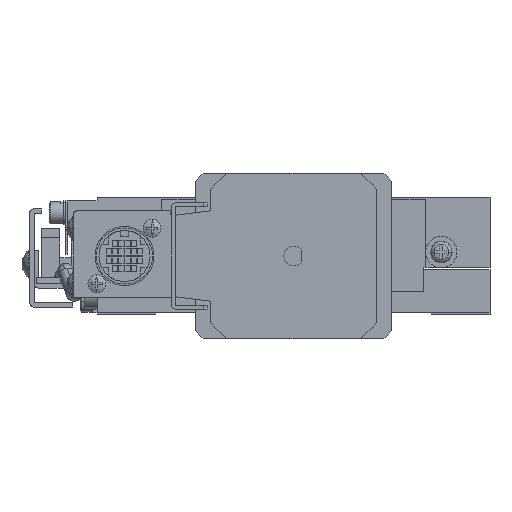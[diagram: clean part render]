
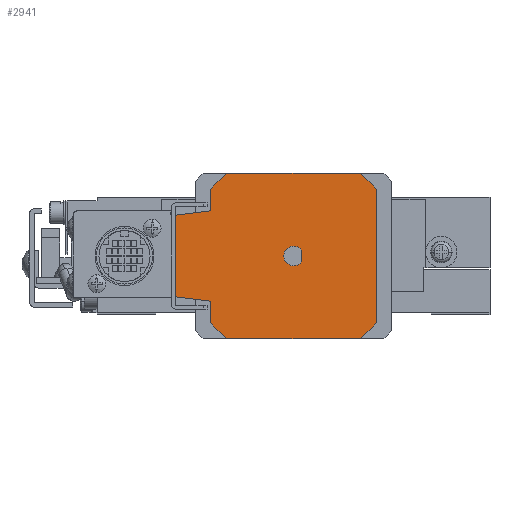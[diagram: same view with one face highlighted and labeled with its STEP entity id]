
A CAD part, left-side view. The second image highlights one B-rep face of the part: STEP entity #2941.
In plain terms, the highlighted planar face has unit normal (-1, 0, 0).
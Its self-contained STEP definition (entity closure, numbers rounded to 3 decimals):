
#1685 = CARTESIAN_POINT ( 'NONE',  ( -326.094, 1.688, -177.376 ) ) ;
#2014 = EDGE_CURVE ( 'NONE', #16147, #3051, #35615, .T. ) ;
#2346 = CARTESIAN_POINT ( 'NONE',  ( -326.094, 18.658, -156.376 ) ) ;
#2634 = DIRECTION ( 'NONE',  ( 0., 0.993, 0.122 ) ) ;
#2780 = DIRECTION ( 'NONE',  ( 0., -0.778, -0.629 ) ) ;
#2941 = ADVANCED_FACE ( 'NONE', ( #55818, #35565 ), #17891, .F. ) ;
#3051 = VERTEX_POINT ( 'NONE', #31726 ) ;
#4024 = CARTESIAN_POINT ( 'NONE',  ( -326.094, 18.658, -156.376 ) ) ;
#4031 = CARTESIAN_POINT ( 'NONE',  ( -326.094, -2.342, -139.405 ) ) ;
#4065 = VECTOR ( 'NONE', #52020, 1000. ) ;
#4090 = DIRECTION ( 'NONE',  ( 1., 0., 0. ) ) ;
#4941 = CARTESIAN_POINT ( 'NONE',  ( -326.094, 48.658, -146.423 ) ) ;
#6215 = EDGE_LOOP ( 'NONE', ( #20209, #25193 ) ) ;
#7402 = VECTOR ( 'NONE', #42348, 1000. ) ;
#7574 = VERTEX_POINT ( 'NONE', #19471 ) ;
#7965 = VERTEX_POINT ( 'NONE', #59954 ) ;
#8746 = VECTOR ( 'NONE', #55565, 1000. ) ;
#9273 = CARTESIAN_POINT ( 'NONE',  ( -326.094, 39.658, -144.876 ) ) ;
#9867 = CARTESIAN_POINT ( 'NONE',  ( -326.094, -2.342, -139.405 ) ) ;
#9928 = EDGE_CURVE ( 'NONE', #12698, #38519, #14304, .T. ) ;
#11139 = VECTOR ( 'NONE', #30746, 1000. ) ;
#11410 = VECTOR ( 'NONE', #2634, 1000. ) ;
#12698 = VERTEX_POINT ( 'NONE', #29120 ) ;
#12817 = ORIENTED_EDGE ( 'NONE', *, *, #28439, .F. ) ;
#12976 = CARTESIAN_POINT ( 'NONE',  ( -326.094, 35.629, -177.376 ) ) ;
#14202 = EDGE_CURVE ( 'NONE', #18560, #52153, #22407, .T. ) ;
#14304 = LINE ( 'NONE', #14915, #4065 ) ;
#14410 = DIRECTION ( 'NONE',  ( 0., 0.122, -0.993 ) ) ;
#14606 = CARTESIAN_POINT ( 'NONE',  ( -326.094, 48.158, -166.328 ) ) ;
#14915 = CARTESIAN_POINT ( 'NONE',  ( -326.094, 16.658, -157.876 ) ) ;
#15317 = CARTESIAN_POINT ( 'NONE',  ( -326.094, 18.658, -156.376 ) ) ;
#15512 = CARTESIAN_POINT ( 'NONE',  ( -326.094, 35.629, -135.376 ) ) ;
#16147 = VERTEX_POINT ( 'NONE', #15512 ) ;
#16931 = EDGE_CURVE ( 'NONE', #52153, #38226, #22280, .T. ) ;
#17891 = PLANE ( 'NONE',  #47816 ) ;
#18508 = CARTESIAN_POINT ( 'NONE',  ( -326.094, 72.709, -205.927 ) ) ;
#18560 = VERTEX_POINT ( 'NONE', #37074 ) ;
#18696 = CARTESIAN_POINT ( 'NONE',  ( -326.094, 39.658, -167.876 ) ) ;
#18847 = DIRECTION ( 'NONE',  ( 1., 0., 0. ) ) ;
#19471 = CARTESIAN_POINT ( 'NONE',  ( -326.094, 48.658, -166.328 ) ) ;
#19768 = ORIENTED_EDGE ( 'NONE', *, *, #14202, .F. ) ;
#20209 = ORIENTED_EDGE ( 'NONE', *, *, #35200, .T. ) ;
#20392 = CARTESIAN_POINT ( 'NONE',  ( -326.094, 48.219, -145.927 ) ) ;
#20983 = VECTOR ( 'NONE', #38881, 1000. ) ;
#21291 = CARTESIAN_POINT ( 'NONE',  ( -326.094, 39.658, -167.876 ) ) ;
#21371 = CARTESIAN_POINT ( 'NONE',  ( -326.094, -2.342, -173.346 ) ) ;
#21537 = AXIS2_PLACEMENT_3D ( 'NONE', #4024, #54746, #22299 ) ;
#21647 = CARTESIAN_POINT ( 'NONE',  ( -326.094, 48.219, -166.824 ) ) ;
#22280 = LINE ( 'NONE', #21291, #11410 ) ;
#22299 = DIRECTION ( 'NONE',  ( 0., 0.629, -0.778 ) ) ;
#22407 = LINE ( 'NONE', #55285, #41321 ) ;
#22459 = VECTOR ( 'NONE', #40194, 1000. ) ;
#22677 = ORIENTED_EDGE ( 'NONE', *, *, #24856, .F. ) ;
#23201 = DIRECTION ( 'NONE',  ( 0., 1., 0. ) ) ;
#23410 = DIRECTION ( 'NONE',  ( 1., 0., 0. ) ) ;
#24635 = AXIS2_PLACEMENT_3D ( 'NONE', #59887, #23410, #23201 ) ;
#24856 = EDGE_CURVE ( 'NONE', #30305, #18560, #28671, .T. ) ;
#25193 = ORIENTED_EDGE ( 'NONE', *, *, #9928, .F. ) ;
#25405 = LINE ( 'NONE', #59369, #22459 ) ;
#25775 = EDGE_CURVE ( 'NONE', #49388, #40246, #35126, .T. ) ;
#26537 = ORIENTED_EDGE ( 'NONE', *, *, #50437, .F. ) ;
#28208 = CARTESIAN_POINT ( 'NONE',  ( -326.094, 35.629, -135.376 ) ) ;
#28439 = EDGE_CURVE ( 'NONE', #7574, #40064, #25405, .T. ) ;
#28671 = CIRCLE ( 'NONE', #21537, 27. ) ;
#28974 = CIRCLE ( 'NONE', #34477, 0.5 ) ;
#29120 = CARTESIAN_POINT ( 'NONE',  ( -326.094, 16.658, -157.876 ) ) ;
#30305 = VERTEX_POINT ( 'NONE', #12976 ) ;
#30746 = DIRECTION ( 'NONE',  ( 0., -0.993, 0.122 ) ) ;
#31008 = VERTEX_POINT ( 'NONE', #9867 ) ;
#31194 = CARTESIAN_POINT ( 'NONE',  ( -326.094, 18.658, -156.376 ) ) ;
#31725 = CIRCLE ( 'NONE', #24635, 0.5 ) ;
#31726 = CARTESIAN_POINT ( 'NONE',  ( -326.094, 1.688, -135.376 ) ) ;
#31829 = VERTEX_POINT ( 'NONE', #21371 ) ;
#32814 = CARTESIAN_POINT ( 'NONE',  ( -326.094, 16.658, -154.876 ) ) ;
#33047 = ORIENTED_EDGE ( 'NONE', *, *, #34425, .F. ) ;
#34425 = EDGE_CURVE ( 'NONE', #38226, #7574, #28974, .T. ) ;
#34477 = AXIS2_PLACEMENT_3D ( 'NONE', #14606, #18847, #14410 ) ;
#35126 = LINE ( 'NONE', #20392, #11139 ) ;
#35200 = EDGE_CURVE ( 'NONE', #12698, #38519, #36926, .T. ) ;
#35565 = FACE_BOUND ( 'NONE', #6215, .T. ) ;
#35615 = LINE ( 'NONE', #28208, #8746 ) ;
#36184 = CARTESIAN_POINT ( 'NONE',  ( -326.094, 48.219, -145.927 ) ) ;
#36725 = EDGE_CURVE ( 'NONE', #56921, #16147, #44660, .T. ) ;
#36926 = CIRCLE ( 'NONE', #55814, 2.5 ) ;
#37074 = CARTESIAN_POINT ( 'NONE',  ( -326.094, 39.658, -173.346 ) ) ;
#37436 = ORIENTED_EDGE ( 'NONE', *, *, #37808, .F. ) ;
#37808 = EDGE_CURVE ( 'NONE', #31008, #31829, #43818, .T. ) ;
#38226 = VERTEX_POINT ( 'NONE', #21647 ) ;
#38427 = EDGE_CURVE ( 'NONE', #40246, #56921, #44437, .T. ) ;
#38519 = VERTEX_POINT ( 'NONE', #32814 ) ;
#38795 = VECTOR ( 'NONE', #41220, 1000. ) ;
#38881 = DIRECTION ( 'NONE',  ( 0., 1., 0. ) ) ;
#39952 = DIRECTION ( 'NONE',  ( 1., 0., 0. ) ) ;
#40064 = VERTEX_POINT ( 'NONE', #4941 ) ;
#40194 = DIRECTION ( 'NONE',  ( 0., 0., 1. ) ) ;
#40246 = VERTEX_POINT ( 'NONE', #57056 ) ;
#40316 = DIRECTION ( 'NONE',  ( 1., 0., 0. ) ) ;
#40584 = EDGE_LOOP ( 'NONE', ( #54794, #37436, #26537, #56556, #53476, #58346, #48474, #57814, #12817, #33047, #41727, #19768, #22677, #59028 ) ) ;
#41220 = DIRECTION ( 'NONE',  ( 0., 0., -1. ) ) ;
#41321 = VECTOR ( 'NONE', #46562, 1000. ) ;
#41393 = AXIS2_PLACEMENT_3D ( 'NONE', #31194, #39952, #2780 ) ;
#41727 = ORIENTED_EDGE ( 'NONE', *, *, #16931, .F. ) ;
#42348 = DIRECTION ( 'NONE',  ( 0., 0., 1. ) ) ;
#42550 = DIRECTION ( 'NONE',  ( 0., -0.629, 0.778 ) ) ;
#43153 = DIRECTION ( 'NONE',  ( 1., 0., 0. ) ) ;
#43818 = LINE ( 'NONE', #4031, #38795 ) ;
#44301 = AXIS2_PLACEMENT_3D ( 'NONE', #47699, #57426, #58025 ) ;
#44437 = LINE ( 'NONE', #9273, #7402 ) ;
#44660 = CIRCLE ( 'NONE', #44301, 27. ) ;
#46246 = CIRCLE ( 'NONE', #54914, 27. ) ;
#46562 = DIRECTION ( 'NONE',  ( 0., 0., 1. ) ) ;
#47699 = CARTESIAN_POINT ( 'NONE',  ( -326.094, 18.658, -156.376 ) ) ;
#47816 = AXIS2_PLACEMENT_3D ( 'NONE', #18508, #4090, #50542 ) ;
#48474 = ORIENTED_EDGE ( 'NONE', *, *, #25775, .F. ) ;
#49191 = EDGE_CURVE ( 'NONE', #7965, #30305, #59435, .T. ) ;
#49255 = CARTESIAN_POINT ( 'NONE',  ( -326.094, 39.658, -139.405 ) ) ;
#49388 = VERTEX_POINT ( 'NONE', #36184 ) ;
#50437 = EDGE_CURVE ( 'NONE', #3051, #31008, #46246, .T. ) ;
#50542 = DIRECTION ( 'NONE',  ( 0., 0., 1. ) ) ;
#51253 = EDGE_CURVE ( 'NONE', #31829, #7965, #59898, .T. ) ;
#52020 = DIRECTION ( 'NONE',  ( 0., 0., 1. ) ) ;
#52153 = VERTEX_POINT ( 'NONE', #18696 ) ;
#53442 = DIRECTION ( 'NONE',  ( 0., -0.8, -0.6 ) ) ;
#53476 = ORIENTED_EDGE ( 'NONE', *, *, #36725, .F. ) ;
#54746 = DIRECTION ( 'NONE',  ( 1., 0., 0. ) ) ;
#54794 = ORIENTED_EDGE ( 'NONE', *, *, #51253, .F. ) ;
#54914 = AXIS2_PLACEMENT_3D ( 'NONE', #15317, #43153, #42550 ) ;
#55285 = CARTESIAN_POINT ( 'NONE',  ( -326.094, 39.658, -173.346 ) ) ;
#55565 = DIRECTION ( 'NONE',  ( 0., -1., 0. ) ) ;
#55814 = AXIS2_PLACEMENT_3D ( 'NONE', #2346, #40316, #53442 ) ;
#55818 = FACE_OUTER_BOUND ( 'NONE', #40584, .T. ) ;
#56556 = ORIENTED_EDGE ( 'NONE', *, *, #2014, .F. ) ;
#56921 = VERTEX_POINT ( 'NONE', #49255 ) ;
#57056 = CARTESIAN_POINT ( 'NONE',  ( -326.094, 39.658, -144.876 ) ) ;
#57426 = DIRECTION ( 'NONE',  ( 1., 0., 0. ) ) ;
#57814 = ORIENTED_EDGE ( 'NONE', *, *, #59936, .F. ) ;
#58025 = DIRECTION ( 'NONE',  ( 0., 0.778, 0.629 ) ) ;
#58346 = ORIENTED_EDGE ( 'NONE', *, *, #38427, .F. ) ;
#59028 = ORIENTED_EDGE ( 'NONE', *, *, #49191, .F. ) ;
#59369 = CARTESIAN_POINT ( 'NONE',  ( -326.094, 48.658, -166.328 ) ) ;
#59435 = LINE ( 'NONE', #1685, #20983 ) ;
#59887 = CARTESIAN_POINT ( 'NONE',  ( -326.094, 48.158, -146.423 ) ) ;
#59898 = CIRCLE ( 'NONE', #41393, 27. ) ;
#59936 = EDGE_CURVE ( 'NONE', #40064, #49388, #31725, .T. ) ;
#59954 = CARTESIAN_POINT ( 'NONE',  ( -326.094, 1.688, -177.376 ) ) ;
